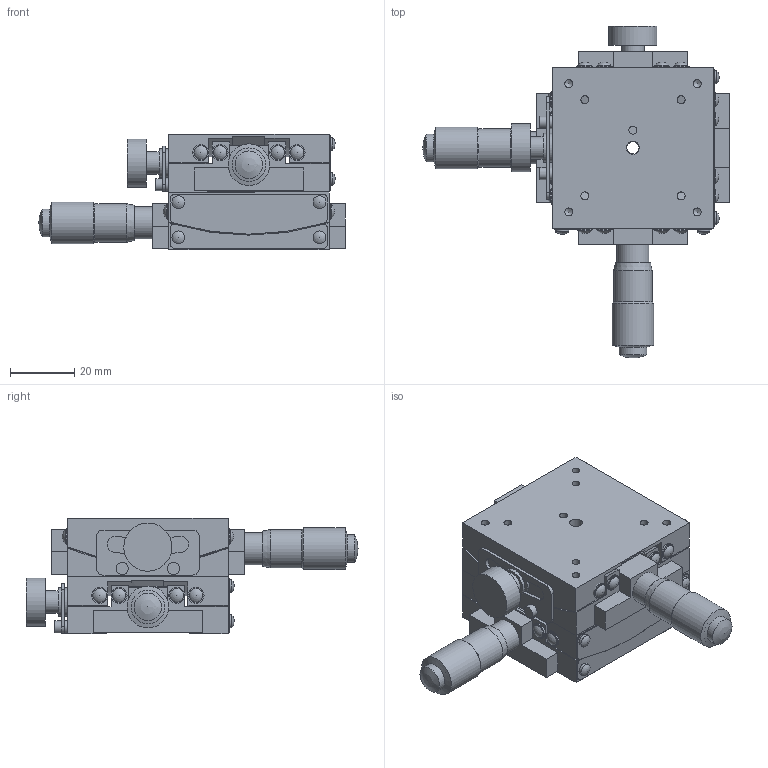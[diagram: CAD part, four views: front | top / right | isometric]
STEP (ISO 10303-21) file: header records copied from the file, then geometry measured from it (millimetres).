
FILE_DESCRIPTION( ( 'STEP AP203' ), '1' );
FILE_NAME( 'C:/3D-Trans/3D_B59-50UAR+080911.step', '2008-09-11T02:58:40', ( ' ' ), ( ' ' ), 'XStep 1.0', ' ', ' ' );
FILE_SCHEMA( ( 'CONFIG_CONTROL_DESIGN' ) );
Length unit declared in the file: millimetre
Products named in the file (6): 1; 2; 3; 4; 5; 6
Bounding box: 95.5 x 103.5 x 36 mm (x, y, z)
Volume: 92699.8 mm3; surface area: 48035.6 mm2
Topology: 6 solids, 10 shells, 505 faces, 1292 edges, 834 vertices
Faces by surface type: plane 244, cylinder 214, sphere 28, cone 19
Full cylindrical faces by diameter (mm): 2.5 x26, 3.5 x4, 3.8 x5, 4 x18, 4.3 x16, 5 x20, 6 x4, 6.5 x2, 7 x2, 8.6 x2, 9 x4, 9.5 x6, 10 x6, 10.5 x2, 11 x2, 12 x2, 13 x2, 15 x2
Entity records: 14665 total; most frequent: CARTESIAN_POINT 3182, DIRECTION 2427, ORIENTED_EDGE 2022, EDGE_CURVE 1011, AXIS2_PLACEMENT_3D 944, EDGE_LOOP 746, VERTEX_POINT 735, FACE_OUTER_BOUND 630
